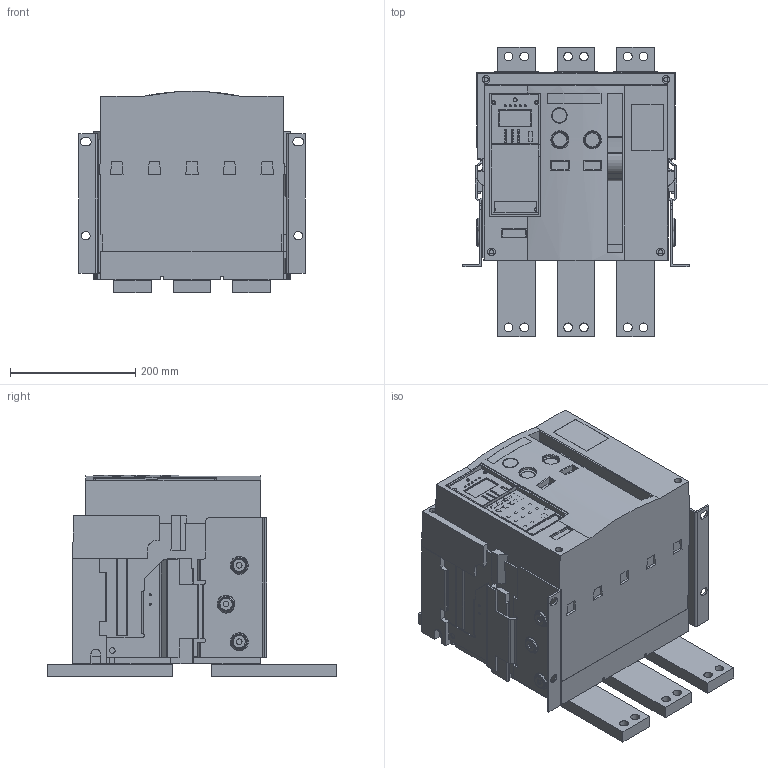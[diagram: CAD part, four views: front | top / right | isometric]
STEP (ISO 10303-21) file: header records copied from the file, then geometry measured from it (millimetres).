
FILE_DESCRIPTION (( 'STEP AP214' ), '1' );
FILE_NAME ('OptiMat A-S2-B-2000-3P-F-X.STEP', '2023-07-31T08:57:02', ( '' ), ( '' ), 'SwSTEP 2.0', 'SolidWorks 2018', '' );
FILE_SCHEMA (( 'AUTOMOTIVE_DESIGN' ));
Length unit declared in the file: millimetre
Products named in the file (1): OptiMat A-S2-B-2000-3P-F-X
Bounding box: 361 x 461.96 x 320.77 mm (x, y, z)
Volume: 25997395.8 mm3; surface area: 1421653 mm2
Topology: 7 solids, 37 shells, 2376 faces, 6285 edges, 4140 vertices
Faces by surface type: plane 1374, cylinder 799, cone 110, bspline 93
Entity records: 109137 total; most frequent: CARTESIAN_POINT 25276, ORIENTED_EDGE 12566, DIRECTION 12311, EDGE_CURVE 6283, VERTEX_POINT 4140, LINE 4137, VECTOR 4137, AXIS2_PLACEMENT_3D 4087
